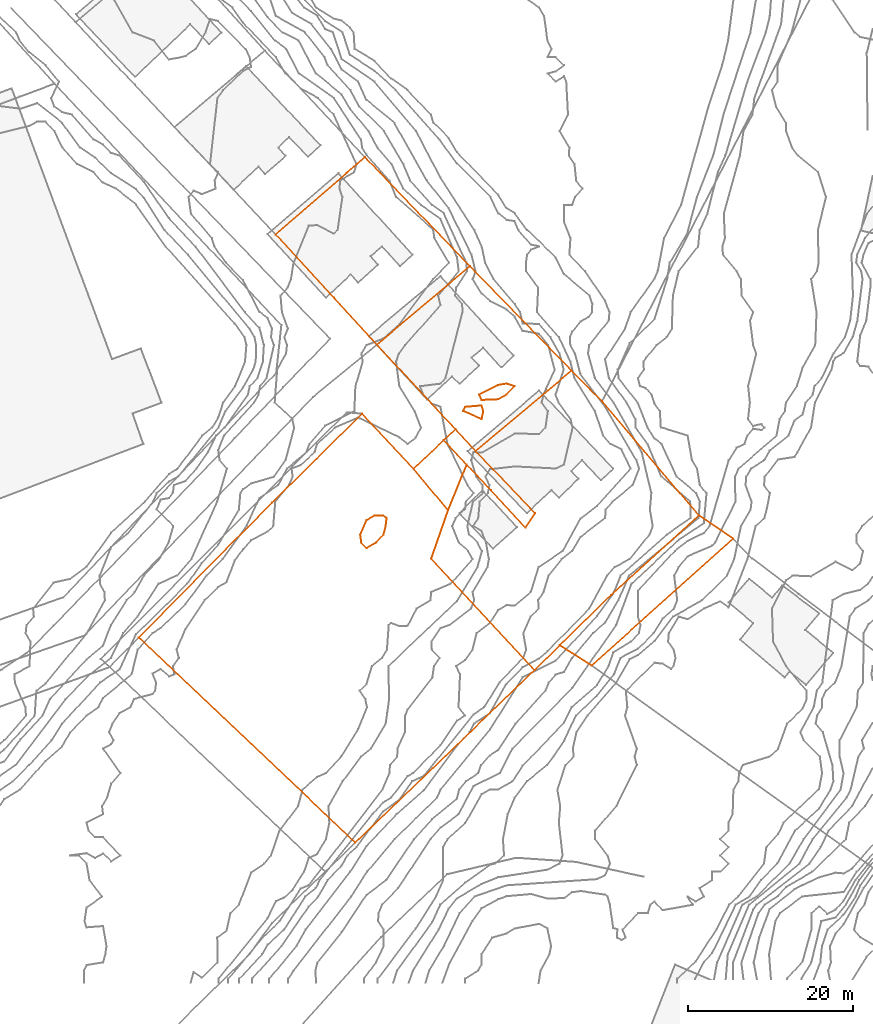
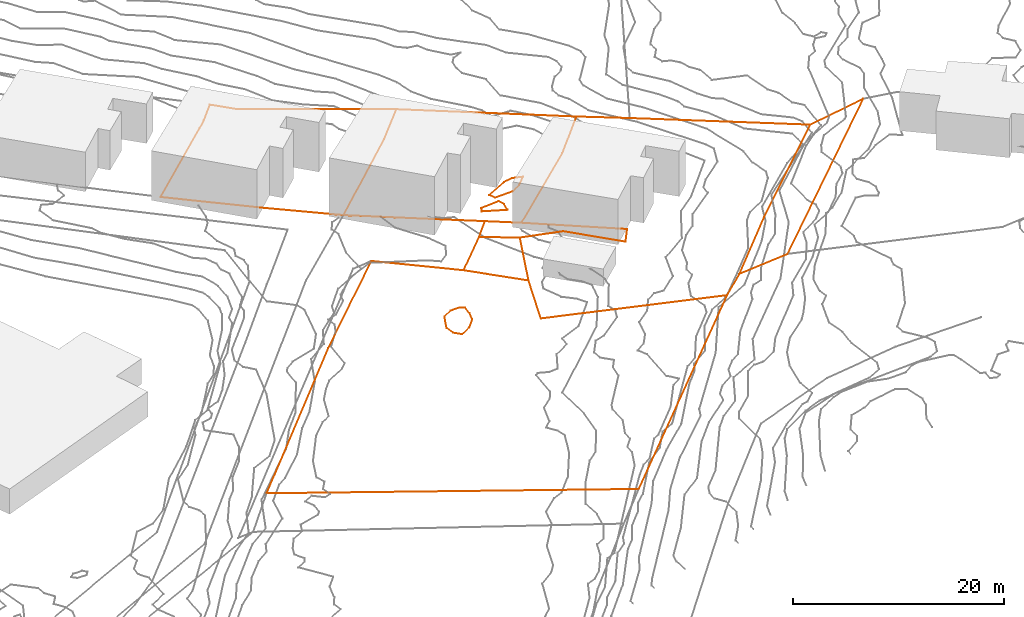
# Not in any storey, part 166 of 419: 10 proxies.
"""IFC2X3 model written with IfcOpenShell, lengths in metres."""

import ifcopenshell
import ifcopenshell.guid

model = None  # the IFC model being written
_history = None  # IfcOwnerHistory: only IFC2X3 demands one
_inside = {}  # id of a spatial element -> (the spatial element, [elements in it])
_under = {}  # id of a project, library or spatial element -> (it, [spatial elements below it])
_declared = {}  # id of a project -> (the project, [libraries it declares])
_typed = {}  # id of a type object -> (the type object, [elements of that type])
_made_of = {}  # id of a material, layer set ... -> (it, [elements and type objects made of it])


def new_model(schema):
    """Start an empty IFC model of exactly this schema.

    Asked for "IFC4X3", IfcOpenShell would pick the latest addendum, in which some entities
    have other attributes; the version numbers below select the first issue.
    IFC2X3 requires an IfcOwnerHistory on every rooted entity: one is made here for all.
    """
    global model, _history
    if schema == "IFC4X3":
        model = ifcopenshell.file(schema_version=(4, 3, 0, 0))
    else:
        model = ifcopenshell.file(schema=schema)
    _inside.clear()
    _under.clear()
    _declared.clear()
    _typed.clear()
    _made_of.clear()
    _history = None
    if model.schema == "IFC2X3":
        org = make("IfcOrganization", Name="unknown")
        user = make(
            "IfcPersonAndOrganization",
            ThePerson=make("IfcPerson", FamilyName="unknown"),
            TheOrganization=org,
        )
        app = make(
            "IfcApplication",
            ApplicationDeveloper=org,
            Version="unknown",
            ApplicationFullName="unknown",
            ApplicationIdentifier="unknown",
        )
        _history = make(
            "IfcOwnerHistory",
            OwningUser=user,
            OwningApplication=app,
            ChangeAction="ADDED",
            CreationDate=0,
        )
    return model


def make(cls, **values):
    """One entity of the class cls with the attributes given. An attribute that is None is left unset."""
    return model.create_entity(
        cls, **{name: value for name, value in values.items() if value is not None}
    )


def entity(cls, *values):
    """Any entity or typed value of the class cls, its attributes in the order of the schema. None: left unset."""
    e = model.create_entity(cls)
    for i, value in enumerate(values):
        if value is not None:
            e[i] = value
    return e


def rooted(cls, **values):
    """An entity with a GlobalId (a new one), such as an element, a storey or a relation."""
    return make(cls, GlobalId=ifcopenshell.guid.new(), OwnerHistory=_history, **values)


def si_unit(unit_type, name, prefix=None):
    """IfcSIUnit, for example si_unit("LENGTHUNIT", "METRE", prefix="MILLI")."""
    return make("IfcSIUnit", UnitType=unit_type, Prefix=prefix, Name=name)


def assignment(units):
    """IfcUnitAssignment: the units of a project."""
    return None if units is None else make("IfcUnitAssignment", Units=units)


def point(xyz):
    """IfcCartesianPoint."""
    return None if xyz is None else make("IfcCartesianPoint", Coordinates=xyz)


def direction(xyz):
    """IfcDirection."""
    return None if xyz is None else make("IfcDirection", DirectionRatios=xyz)


def frame(location, z_axis=None, x_axis=None):
    """IfcAxis2Placement3D, a coordinate frame: its origin and axes. An axis left out is left unset."""
    return make(
        "IfcAxis2Placement3D",
        Location=point(location),
        Axis=direction(z_axis),
        RefDirection=direction(x_axis),
    )


def origin_with_axes():
    """The frame at (0, 0, 0) with the z axis (0, 0, 1) and the x axis (1, 0, 0) written out."""
    return frame((0.0, 0.0, 0.0), z_axis=(0.0, 0.0, 1.0), x_axis=(1.0, 0.0, 0.0))


def place(relative_to, where):
    """IfcLocalPlacement: puts the frame where relative to a parent placement (None: the world)."""
    return make(
        "IfcLocalPlacement", PlacementRelTo=relative_to, RelativePlacement=where
    )


def context(
    kind, dimensions, precision=None, world=None, true_north=None, identifier=None
):
    """IfcGeometricRepresentationContext, for example the 3D "Model" context."""
    return make(
        "IfcGeometricRepresentationContext",
        ContextIdentifier=identifier,
        ContextType=kind,
        CoordinateSpaceDimension=dimensions,
        Precision=precision,
        WorldCoordinateSystem=world,
        TrueNorth=true_north,
    )


def subcontext(parent, identifier, kind, view, scale=None):
    """IfcGeometricRepresentationSubContext, for example "Body" below "Model"."""
    return make(
        "IfcGeometricRepresentationSubContext",
        ContextIdentifier=identifier,
        ContextType=kind,
        ParentContext=parent,
        TargetScale=scale,
        TargetView=view,
    )


def project(units=None, contexts=None):
    """IfcProject with its units and contexts."""
    return rooted(
        "IfcProject",
        Name="project",
        RepresentationContexts=contexts,
        UnitsInContext=assignment(units),
    )


def shape(context_of_items, identifier, shape_type, items):
    """IfcShapeRepresentation: the items that make up one representation, for example the "Body"."""
    return make(
        "IfcShapeRepresentation",
        ContextOfItems=context_of_items,
        RepresentationIdentifier=identifier,
        RepresentationType=shape_type,
        Items=items,
    )


def made_of(thing, what):
    """Note that an element or type object is made of a material, layer set ...; save() writes the relation."""
    if what is not None:
        _made_of.setdefault(what.id(), (what, []))[1].append(thing)
    return thing


def element(
    cls,
    number,
    at=None,
    inside=None,
    cuts=None,
    type_object=None,
    material=None,
    context=None,
    identifier="Body",
    shape_type=None,
    held_by="IfcProductDefinitionShape",
    body=None,
    shapes=None,
    **own,
):
    """One element of the class cls, such as IfcWall. Its Tag is "e" and its number.

    at: its placement. inside: the storey or other place that contains it. cuts: it is an
    opening in that element (IfcRelVoidsElement). A single representation is given by context,
    identifier, shape_type and body (its items); several are given by shapes. held_by: the class
    of the entity that holds the representations. save() writes the other relations.
    """
    e = rooted(cls, Tag="e%d" % number, ObjectPlacement=at, **own)
    if body is not None:
        shapes = [shape(context, identifier, shape_type, body)]
    if shapes is not None:
        e.Representation = make(held_by, Representations=shapes)
    if inside is not None:
        _inside.setdefault(inside.id(), (inside, []))[1].append(e)
    if cuts is not None:
        rooted(
            "IfcRelVoidsElement", RelatingBuildingElement=cuts, RelatedOpeningElement=e
        )
    if type_object is not None:
        _typed.setdefault(type_object.id(), (type_object, []))[1].append(e)
    return made_of(e, material)


def aggregate(whole, parts):
    """IfcRelAggregates: a whole, such as a stair, and the parts it consists of."""
    return rooted("IfcRelAggregates", RelatingObject=whole, RelatedObjects=parts)


def save(model, path):
    """Write the relations noted so far, then the file.

    IfcRelAggregates (storeys below a building ...), IfcRelContainedInSpatialStructure (elements
    in a storey), IfcRelDefinesByType, IfcRelAssociatesMaterial and IfcRelDeclares: one each for
    every whole, place, type object, material and project.
    """
    for whole, parts in _under.values():
        aggregate(whole, parts)
    for where, things in _inside.values():
        rooted(
            "IfcRelContainedInSpatialStructure",
            RelatedElements=things,
            RelatingStructure=where,
        )
    for kind, things in _typed.values():
        rooted("IfcRelDefinesByType", RelatedObjects=things, RelatingType=kind)
    for what, things in _made_of.values():
        rooted("IfcRelAssociatesMaterial", RelatedObjects=things, RelatingMaterial=what)
    for by, libraries in _declared.values():
        rooted("IfcRelDeclares", RelatingContext=by, RelatedDefinitions=libraries)
    model.write(path)


model = new_model("IFC2X3")

# Units and contexts
model_context = context("Model", 3, precision=1e-05, world=origin_with_axes())
body_context = subcontext(model_context, "Body", "Model", "MODEL_VIEW")
ifc_project = project(units=[si_unit("AREAUNIT", "SQUARE_METRE"), si_unit("LENGTHUNIT", "METRE")], contexts=[model_context])

# Proxies
proxy_1_placement = place(None, frame((491.4220204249, 40.377690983, 33.8789333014), z_axis=(0.0, 0.0, 1.0), x_axis=(1.0, 0.0, 0.0)))
element("IfcBuildingElementProxy", 1, at=proxy_1_placement, Name="Cadastre 340", ObjectType="NOTDEFINED", context=body_context, shape_type="GeometricCurveSet", body=[
    entity("IfcGeometricCurveSet", [entity("IfcPolyline", [entity("IfcCartesianPoint", [48.11, -3.9500000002, 8.4664956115]), entity("IfcCartesianPoint", [26.3099999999, -24.9400000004, 6.4080174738]), entity("IfcCartesianPoint", [0.0, 0.0, 0.0]), entity("IfcCartesianPoint", [16.21, 16.3999999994, 1.1741791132]), entity("IfcCartesianPoint", [27.1399999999, 27.1799999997, 0.8896856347]), entity("IfcCartesianPoint", [33.3899999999, 20.5199999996, 1.6634661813]), entity("IfcCartesianPoint", [37.59, 15.46, 2.0742735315]), entity("IfcCartesianPoint", [35.5399999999, 9.5800000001, 1.9748658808]), entity("IfcCartesianPoint", [48.11, -3.9500000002, 8.4664956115])])]),
])
proxy_2_placement = place(None, frame((524.8120204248, 60.8976909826, 35.5423994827), z_axis=(0.0, 0.0, 1.0), x_axis=(1.0, 0.0, 0.0)))
element("IfcBuildingElementProxy", 2, at=proxy_2_placement, Name="Cadastre 341", ObjectType="NOTDEFINED", context=body_context, shape_type="GeometricCurveSet", body=[
    entity("IfcGeometricCurveSet", [entity("IfcPolyline", [entity("IfcCartesianPoint", [3.6800000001, 3.4500000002, 0.4678004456]), entity("IfcCartesianPoint", [6.4600000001, 0.5099999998, 1.2089489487]), entity("IfcCartesianPoint", [4.2000000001, -5.0599999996, 0.4108073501]), entity("IfcCartesianPoint", [0.0, 0.0, 0.0]), entity("IfcCartesianPoint", [3.6800000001, 3.4500000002, 0.4678004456])])]),
])
proxy_3_placement = place(None, frame((520.3720204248, 75.9676909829, 34.3371866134), z_axis=(0.0, 0.0, 1.0), x_axis=(1.0, 0.0, 0.0)))
element("IfcBuildingElementProxy", 3, at=proxy_3_placement, Name="Cadastre 342", ObjectType="NOTDEFINED", context=body_context, shape_type="GeometricCurveSet", body=[
    entity("IfcGeometricCurveSet", [entity("IfcPolyline", [entity("IfcCartesianPoint", [11.3, 9.54, 2.5108441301]), entity("IfcCartesianPoint", [23.67, -3.1400000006, 5.0222287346]), entity("IfcCartesianPoint", [20.71, -5.6200000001, 3.3262027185]), entity("IfcCartesianPoint", [12.01, -12.9300000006, 2.749237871]), entity("IfcCartesianPoint", [9.54, -10.29, 2.2012779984]), entity("IfcCartesianPoint", [7.11, -7.6500000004, 1.6202172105]), entity("IfcCartesianPoint", [0.0, 0.0, 0.0]), entity("IfcCartesianPoint", [8.6799999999, 7.3300000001, 1.3032730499]), entity("IfcCartesianPoint", [11.3, 9.54, 2.5108441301])])]),
])
proxy_4_placement = place(None, frame((528.4920204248, 64.3476909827, 36.0101999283), z_axis=(0.0, 0.0, 1.0), x_axis=(1.0, 0.0, 0.0)))
element("IfcBuildingElementProxy", 4, at=proxy_4_placement, Name="Cadastre 343", ObjectType="NOTDEFINED", context=body_context, shape_type="GeometricCurveSet", body=[
    entity("IfcGeometricCurveSet", [entity("IfcPolyline", [entity("IfcCartesianPoint", [1.42, 1.3300000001, 0.5282646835]), entity("IfcCartesianPoint", [3.89, -1.3100000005, 1.076224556]), entity("IfcCartesianPoint", [11.09, -8.8600000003, 2.4107714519]), entity("IfcCartesianPoint", [9.92, -10.5999999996, 2.4095196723]), entity("IfcCartesianPoint", [5.72, -6.0700000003, 2.3500870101]), entity("IfcCartesianPoint", [2.78, -2.9400000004, 0.741148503]), entity("IfcCartesianPoint", [0.0, 0.0, 0.0]), entity("IfcCartesianPoint", [1.42, 1.3300000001, 0.5282646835])])]),
])
proxy_5_placement = place(None, frame((526.9620204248, 49.9576909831, 35.8537991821), z_axis=(0.0, 0.0, 1.0), x_axis=(1.0, 0.0, 0.0)))
element("IfcBuildingElementProxy", 5, at=proxy_5_placement, Name="Cadastre 344", ObjectType="NOTDEFINED", context=body_context, shape_type="GeometricCurveSet", body=[
    entity("IfcGeometricCurveSet", [entity("IfcPolyline", [entity("IfcCartesianPoint", [15.63, -10.5300000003, 6.0597011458]), entity("IfcCartesianPoint", [12.5700000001, -13.5300000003, 6.4916297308]), entity("IfcCartesianPoint", [0.0, 0.0, 0.0]), entity("IfcCartesianPoint", [2.05, 5.8799999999, 0.0994076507]), entity("IfcCartesianPoint", [4.3100000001, 11.4499999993, 0.8975492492]), entity("IfcCartesianPoint", [7.25, 8.3199999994, 2.5064877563]), entity("IfcCartesianPoint", [11.4500000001, 3.79, 2.5659204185]), entity("IfcCartesianPoint", [12.62, 5.5299999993, 2.5671721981]), entity("IfcCartesianPoint", [5.42, 13.0799999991, 1.2326253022]), entity("IfcCartesianPoint", [14.12, 20.3899999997, 1.8095901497]), entity("IfcCartesianPoint", [17.0800000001, 22.8699999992, 3.5056161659]), entity("IfcCartesianPoint", [20.76, 19.1099999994, 4.3206096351]), entity("IfcCartesianPoint", [32.52, 5.2699999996, 7.8336905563]), entity("IfcCartesianPoint", [21.87, -4.4100000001, 6.7469808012]), entity("IfcCartesianPoint", [15.63, -10.5300000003, 6.0597011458])])]),
])
proxy_6_placement = place(None, frame((542.5920204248, 39.4276909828, 41.9135003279), z_axis=(0.0, 0.0, 1.0), x_axis=(1.0, 0.0, 0.0)))
element("IfcBuildingElementProxy", 6, at=proxy_6_placement, Name="Cadastre 346", ObjectType="NOTDEFINED", context=body_context, shape_type="GeometricCurveSet", body=[
    entity("IfcGeometricCurveSet", [entity("IfcPolyline", [entity("IfcCartesianPoint", [3.84, -2.4699999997, 2.4694122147]), entity("IfcCartesianPoint", [0.0, 0.0, 0.0]), entity("IfcCartesianPoint", [6.24, 6.1200000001, 0.6872796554]), entity("IfcCartesianPoint", [16.89, 15.7999999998, 1.7739894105]), entity("IfcCartesianPoint", [21.05, 12.96, 5.0390929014]), entity("IfcCartesianPoint", [3.84, -2.4699999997, 2.4694122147])])]),
])
proxy_7_placement = place(None, frame((508.0820204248, 89.3576909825, 32.6141987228), z_axis=(0.0, 0.0, 1.0), x_axis=(1.0, 0.0, 0.0)))
element("IfcBuildingElementProxy", 7, at=proxy_7_placement, Name="Cadastre 348", ObjectType="NOTDEFINED", context=body_context, shape_type="GeometricCurveSet", body=[
    entity("IfcGeometricCurveSet", [entity("IfcPolyline", [entity("IfcCartesianPoint", [10.8300000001, 9.4000000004, 1.1945999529]), entity("IfcCartesianPoint", [12.67, 7.5, 1.1847288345]), entity("IfcCartesianPoint", [23.5900000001, -3.8499999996, 4.2338320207]), entity("IfcCartesianPoint", [20.97, -6.0599999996, 3.0262609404]), entity("IfcCartesianPoint", [12.29, -13.3899999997, 1.7229878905]), entity("IfcCartesianPoint", [7.0600000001, -7.7000000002, 0.9192424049]), entity("IfcCartesianPoint", [0.0, 0.0, 0.0]), entity("IfcCartesianPoint", [8.5700000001, 7.4400000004, 0.4435605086]), entity("IfcCartesianPoint", [9.51, 8.2599999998, 0.5060006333]), entity("IfcCartesianPoint", [10.8300000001, 9.4000000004, 1.1945999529])])]),
])
proxy_8_placement = place(None, frame((532.8062983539, 69.8976909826, 36.0), z_axis=(0.0, 0.0, 1.0), x_axis=(1.0, 0.0, 0.0)))
element("IfcBuildingElementProxy", 8, at=proxy_8_placement, Name="Contour 36.0 m", ObjectType="NOTDEFINED", context=body_context, shape_type="GeometricCurveSet", body=[
    entity("IfcGeometricCurveSet", [entity("IfcPolyline", [entity("IfcCartesianPoint", [2.2857220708, -0.5833359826, 0.0]), entity("IfcCartesianPoint", [3.2857077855, 0.0, 0.0]), entity("IfcCartesianPoint", [4.2856887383, 1.0, 0.0]), entity("IfcCartesianPoint", [3.2857220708, 1.3333192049, 0.0]), entity("IfcCartesianPoint", [2.2857220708, 1.1538484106, 0.0]), entity("IfcCartesianPoint", [0.0, 0.0, 0.0]), entity("IfcCartesianPoint", [0.2857220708, -0.6667090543, 0.0]), entity("IfcCartesianPoint", [2.2857220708, -0.5833359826, 0.0])])]),
])
proxy_9_placement = place(None, frame((530.8420204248, 67.8976909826, 36.0), z_axis=(0.0, 0.0, 1.0), x_axis=(1.0, 0.0, 0.0)))
element("IfcBuildingElementProxy", 9, at=proxy_9_placement, Name="Contour 36.0 m", ObjectType="NOTDEFINED", context=body_context, shape_type="GeometricCurveSet", body=[
    entity("IfcGeometricCurveSet", [entity("IfcPolyline", [entity("IfcCartesianPoint", [2.25, -0.9999500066, 0.0]), entity("IfcCartesianPoint", [2.45, 0.0, 0.0]), entity("IfcCartesianPoint", [2.25, 0.6667090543, 0.0]), entity("IfcCartesianPoint", [0.25, 0.4999750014, 0.0]), entity("IfcCartesianPoint", [0.0, 0.0, 0.0]), entity("IfcCartesianPoint", [2.25, -0.9999500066, 0.0])])]),
])
proxy_10_placement = place(None, frame((518.3420243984, 52.8976909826, 36.0), z_axis=(0.0, 0.0, 1.0), x_axis=(1.0, 0.0, 0.0)))
element("IfcBuildingElementProxy", 10, at=proxy_10_placement, Name="Contour 36.0 m", ObjectType="NOTDEFINED", context=body_context, shape_type="GeometricCurveSet", body=[
    entity("IfcGeometricCurveSet", [entity("IfcPolyline", [entity("IfcCartesianPoint", [1.9038444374, -1.0, 0.0]), entity("IfcCartesianPoint", [0.7499960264, -1.6500028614, 0.0]), entity("IfcCartesianPoint", [0.1309518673, -1.0, 0.0]), entity("IfcCartesianPoint", [0.0, 0.0, 0.0]), entity("IfcCartesianPoint", [0.7499960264, 1.7142779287, 0.0]), entity("IfcCartesianPoint", [1.7499960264, 2.3000057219, 0.0]), entity("IfcCartesianPoint", [2.7499960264, 2.300001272, 0.0]), entity("IfcCartesianPoint", [3.1999950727, 2.0, 0.0]), entity("IfcCartesianPoint", [3.083336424, 1.0, 0.0]), entity("IfcCartesianPoint", [2.8166525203, 0.0, 0.0]), entity("IfcCartesianPoint", [1.9038444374, -1.0, 0.0])])]),
])

save(model, "model.ifc")
